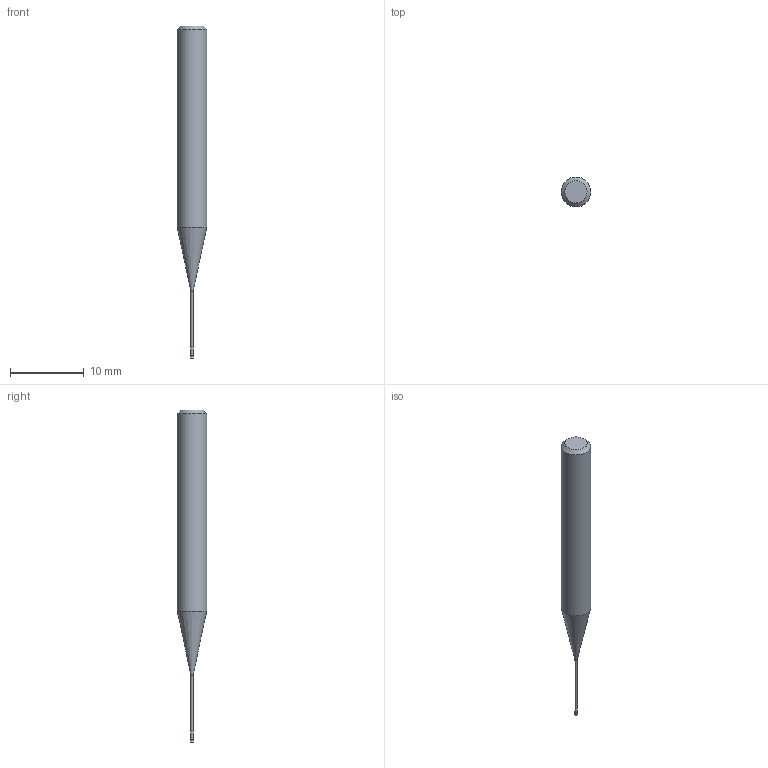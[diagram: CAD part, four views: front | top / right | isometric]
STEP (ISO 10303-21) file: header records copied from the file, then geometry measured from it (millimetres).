
FILE_DESCRIPTION((''),'2;1');
FILE_NAME('C:\Users\nsx150\AppData\Local\Temp\Mastercam 2021\17T8Q8S9EB\TEMP.step','2021-04-21T14:23:51',(''),(''),'STEP Write','Mastercam 2021 ... CNC Software, Inc.','');
FILE_SCHEMA(('AUTOMOTIVE_DESIGN'));
Length unit declared in the file: millimetre
Products named in the file (1): None
Bounding box: 4 x 4 x 45 mm (x, y, z)
Volume: 380.9 mm3; surface area: 419.3 mm2
Topology: 2 solids, 2 shells, 9 faces, 12 edges, 7 vertices
Faces by surface type: plane 4, cylinder 3, cone 2
Full cylindrical faces by diameter (mm): 0.28 x1, 0.3 x1, 4 x1
Entity records: 211 total; most frequent: DIRECTION 36, CARTESIAN_POINT 25, AXIS2_PLACEMENT_3D 18, ORIENTED_EDGE 14, EDGE_LOOP 14, STYLED_ITEM 12, ADVANCED_FACE 9, FACE_BOUND 8
